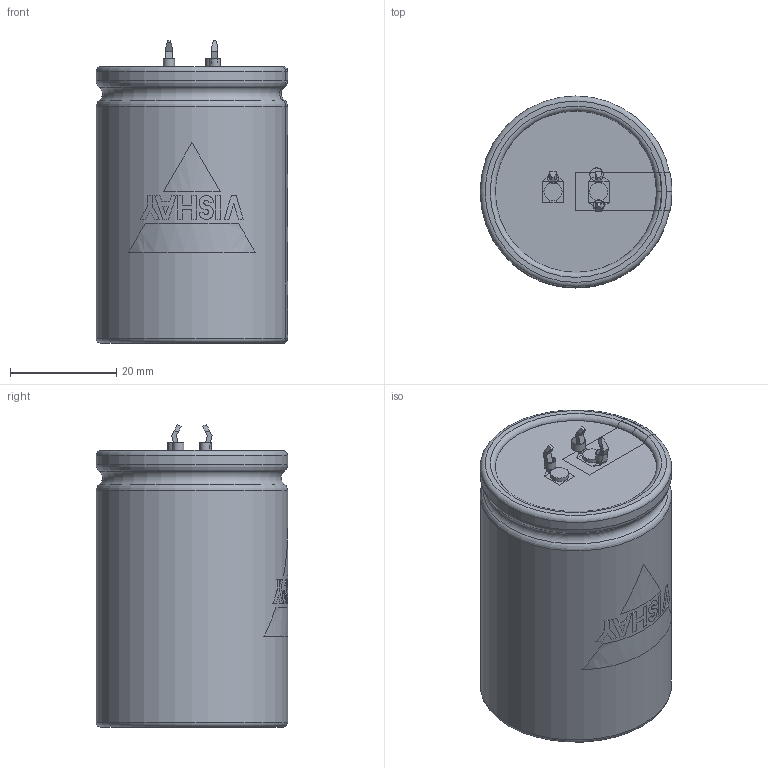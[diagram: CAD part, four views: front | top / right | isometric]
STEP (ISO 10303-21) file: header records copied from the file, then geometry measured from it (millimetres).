
FILE_DESCRIPTION(('FreeCAD Model'),'2;1');
FILE_NAME( 'C:/Users/Gebruiker/Documents/FreeCAD/SnapIn_35x50_3pin_4.0.step', '2020-11-12T21:20:15',('Author'),(''), 'Open CASCADE STEP processor 6.8','FreeCAD','Unknown');
FILE_SCHEMA(('AUTOMOTIVE_DESIGN_CC2 { 1 2 10303 214 -1 1 5 4 }'));
Length unit declared in the file: millimetre
Products named in the file (9): ASSEMBLY; TerminalMinKP; PCBHolesKP; TerminalPlus; Disc; BottomInsulation; Can3D; InkMinusBar; InkLogo
Assembly tree (8 placements, depth 2):
  ASSEMBLY
    TerminalMinKP
    PCBHolesKP
    TerminalPlus
    Disc
    BottomInsulation
    Can3D
    InkMinusBar
    InkLogo
Bounding box: 36.05 x 36.05 x 56.95 mm (x, y, z)
Volume: 60135.3 mm3; surface area: 19094.1 mm2
Topology: 17 solids, 17 shells, 208 faces, 508 edges, 331 vertices
Faces by surface type: plane 159, cylinder 31, torus 18
Full cylindrical faces by diameter (mm): 2 x2, 2.1 x2, 2.5 x1, 2.6 x1, 3.4 x2, 28.8 x2, 30.3 x1, 36 x2
Entity records: 20694 total; most frequent: CARTESIAN_POINT 9314, DIRECTION 1773, ORIENTED_EDGE 1016, PCURVE 1016, DEFINITIONAL_REPRESENTATION 1016, LINE 992, VECTOR 992, EDGE_CURVE 508
